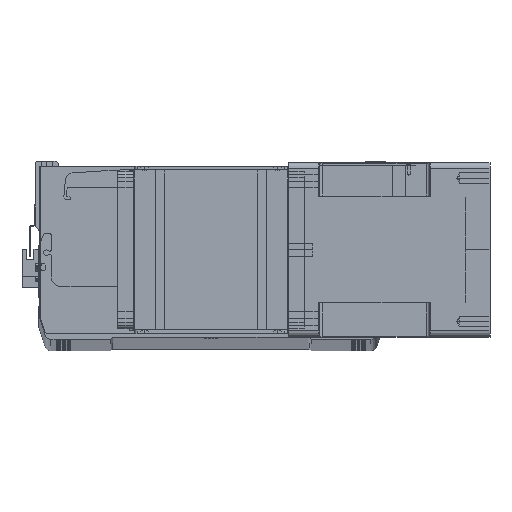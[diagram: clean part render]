
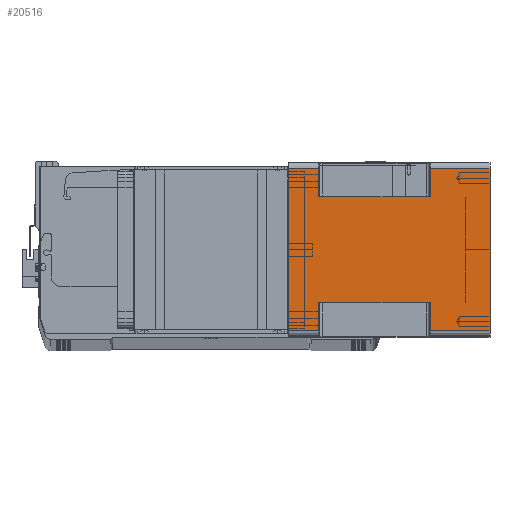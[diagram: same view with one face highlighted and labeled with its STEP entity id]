
A CAD part, top view. The second image highlights one B-rep face of the part: STEP entity #20516.
In plain terms, the highlighted planar face has unit normal (0, 0, 1) as drawn and (1, 0, 0) by its records, which use the part's own axes.
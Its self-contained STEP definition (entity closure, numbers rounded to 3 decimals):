
#662 = LINE ( 'NONE', #18295, #33392 ) ;
#807 = VERTEX_POINT ( 'NONE', #37007 ) ;
#828 = VECTOR ( 'NONE', #37213, 1000. ) ;
#923 = VECTOR ( 'NONE', #28714, 1000. ) ;
#974 = EDGE_CURVE ( 'NONE', #32377, #23443, #19074, .T. ) ;
#1045 = CARTESIAN_POINT ( 'NONE',  ( 71., 66., -115.5 ) ) ;
#1555 = ORIENTED_EDGE ( 'NONE', *, *, #15587, .F. ) ;
#1958 = EDGE_CURVE ( 'NONE', #7105, #29584, #34304, .T. ) ;
#2682 = VECTOR ( 'NONE', #31717, 1000. ) ;
#2788 = DIRECTION ( 'NONE',  ( 0., 0., 1. ) ) ;
#3122 = CARTESIAN_POINT ( 'NONE',  ( 71., -66., 0. ) ) ;
#3743 = ORIENTED_EDGE ( 'NONE', *, *, #38608, .F. ) ;
#4167 = ORIENTED_EDGE ( 'NONE', *, *, #20808, .F. ) ;
#4480 = DIRECTION ( 'NONE',  ( 1., 0., 0. ) ) ;
#4881 = CARTESIAN_POINT ( 'NONE',  ( 71., -66., -115.5 ) ) ;
#5358 = LINE ( 'NONE', #26038, #20657 ) ;
#5848 = CARTESIAN_POINT ( 'NONE',  ( 71., -66., 0. ) ) ;
#6110 = DIRECTION ( 'NONE',  ( 0., 0., 1. ) ) ;
#6191 = LINE ( 'NONE', #5848, #38870 ) ;
#6622 = CARTESIAN_POINT ( 'NONE',  ( 71., 66., -24.5 ) ) ;
#6878 = EDGE_LOOP ( 'NONE', ( #1555, #10021, #17711, #21493, #22031, #39088, #4167, #26973, #31456, #3743, #24262, #20447 ) ) ;
#7105 = VERTEX_POINT ( 'NONE', #12033 ) ;
#7199 = VECTOR ( 'NONE', #2788, 1000. ) ;
#7720 = CARTESIAN_POINT ( 'NONE',  ( 71., 66., 0. ) ) ;
#9432 = CARTESIAN_POINT ( 'NONE',  ( 71., -43., -24.5 ) ) ;
#10021 = ORIENTED_EDGE ( 'NONE', *, *, #24750, .T. ) ;
#11022 = CARTESIAN_POINT ( 'NONE',  ( 71., -66., -24.5 ) ) ;
#12033 = CARTESIAN_POINT ( 'NONE',  ( 71., -66., -164. ) ) ;
#12064 = VECTOR ( 'NONE', #34794, 1000. ) ;
#12416 = DIRECTION ( 'NONE',  ( 0., -1., 0. ) ) ;
#12924 = VERTEX_POINT ( 'NONE', #7720 ) ;
#13063 = LINE ( 'NONE', #31632, #12064 ) ;
#14229 = LINE ( 'NONE', #4881, #38070 ) ;
#15587 = EDGE_CURVE ( 'NONE', #27729, #36501, #32066, .T. ) ;
#15631 = VERTEX_POINT ( 'NONE', #28231 ) ;
#15713 = LINE ( 'NONE', #37517, #32588 ) ;
#15972 = CARTESIAN_POINT ( 'NONE',  ( 71., -43., -24.5 ) ) ;
#17046 = LINE ( 'NONE', #25581, #2682 ) ;
#17711 = ORIENTED_EDGE ( 'NONE', *, *, #1958, .F. ) ;
#18118 = CARTESIAN_POINT ( 'NONE',  ( 71., -43., -115.5 ) ) ;
#18295 = CARTESIAN_POINT ( 'NONE',  ( 71., -66., -24.5 ) ) ;
#18410 = CARTESIAN_POINT ( 'NONE',  ( 71., -43., -164. ) ) ;
#18568 = CARTESIAN_POINT ( 'NONE',  ( 71., 66., -164. ) ) ;
#19074 = LINE ( 'NONE', #18568, #7199 ) ;
#19413 = VERTEX_POINT ( 'NONE', #3122 ) ;
#20447 = ORIENTED_EDGE ( 'NONE', *, *, #28523, .T. ) ;
#20516 = ADVANCED_FACE ( 'NONE', ( #38413 ), #23547, .T. ) ;
#20657 = VECTOR ( 'NONE', #35758, 1000. ) ;
#20808 = EDGE_CURVE ( 'NONE', #15631, #807, #17046, .T. ) ;
#21493 = ORIENTED_EDGE ( 'NONE', *, *, #37551, .T. ) ;
#22031 = ORIENTED_EDGE ( 'NONE', *, *, #974, .T. ) ;
#23443 = VERTEX_POINT ( 'NONE', #1045 ) ;
#23547 = PLANE ( 'NONE',  #32980 ) ;
#24200 = LINE ( 'NONE', #15972, #923 ) ;
#24262 = ORIENTED_EDGE ( 'NONE', *, *, #37198, .F. ) ;
#24373 = DIRECTION ( 'NONE',  ( 0., 1., 0. ) ) ;
#24750 = EDGE_CURVE ( 'NONE', #27729, #29584, #14229, .T. ) ;
#24757 = CARTESIAN_POINT ( 'NONE',  ( 71., 66., -164. ) ) ;
#24871 = CARTESIAN_POINT ( 'NONE',  ( 71., -66., -164. ) ) ;
#24972 = EDGE_CURVE ( 'NONE', #23443, #807, #15713, .T. ) ;
#25581 = CARTESIAN_POINT ( 'NONE',  ( 71., 43., -164. ) ) ;
#26038 = CARTESIAN_POINT ( 'NONE',  ( 71., -66., -164. ) ) ;
#26605 = DIRECTION ( 'NONE',  ( 0., -1., 0. ) ) ;
#26973 = ORIENTED_EDGE ( 'NONE', *, *, #34453, .T. ) ;
#27729 = VERTEX_POINT ( 'NONE', #18118 ) ;
#28231 = CARTESIAN_POINT ( 'NONE',  ( 71., 43., -24.5 ) ) ;
#28523 = EDGE_CURVE ( 'NONE', #33108, #36501, #24200, .T. ) ;
#28714 = DIRECTION ( 'NONE',  ( 0., 1., 0. ) ) ;
#28977 = DIRECTION ( 'NONE',  ( 0., 0., 1. ) ) ;
#29584 = VERTEX_POINT ( 'NONE', #39624 ) ;
#29804 = DIRECTION ( 'NONE',  ( 0., 1., 0. ) ) ;
#30263 = EDGE_CURVE ( 'NONE', #33494, #12924, #13063, .T. ) ;
#30542 = VECTOR ( 'NONE', #6110, 1000. ) ;
#31456 = ORIENTED_EDGE ( 'NONE', *, *, #30263, .T. ) ;
#31632 = CARTESIAN_POINT ( 'NONE',  ( 71., 66., -164. ) ) ;
#31717 = DIRECTION ( 'NONE',  ( 0., 0., -1. ) ) ;
#32066 = LINE ( 'NONE', #18410, #30542 ) ;
#32377 = VERTEX_POINT ( 'NONE', #24757 ) ;
#32588 = VECTOR ( 'NONE', #12416, 1000. ) ;
#32980 = AXIS2_PLACEMENT_3D ( 'NONE', #39208, #4480, #29804 ) ;
#33108 = VERTEX_POINT ( 'NONE', #11022 ) ;
#33392 = VECTOR ( 'NONE', #24373, 1000. ) ;
#33494 = VERTEX_POINT ( 'NONE', #6622 ) ;
#34304 = LINE ( 'NONE', #38291, #40714 ) ;
#34453 = EDGE_CURVE ( 'NONE', #15631, #33494, #662, .T. ) ;
#34794 = DIRECTION ( 'NONE',  ( 0., 0., 1. ) ) ;
#35758 = DIRECTION ( 'NONE',  ( 0., 0., 1. ) ) ;
#36501 = VERTEX_POINT ( 'NONE', #9432 ) ;
#37007 = CARTESIAN_POINT ( 'NONE',  ( 71., 43., -115.5 ) ) ;
#37198 = EDGE_CURVE ( 'NONE', #33108, #19413, #5358, .T. ) ;
#37213 = DIRECTION ( 'NONE',  ( 0., 1., 0. ) ) ;
#37379 = DIRECTION ( 'NONE',  ( 0., 1., 0. ) ) ;
#37517 = CARTESIAN_POINT ( 'NONE',  ( 71., 43., -115.5 ) ) ;
#37551 = EDGE_CURVE ( 'NONE', #7105, #32377, #38478, .T. ) ;
#38070 = VECTOR ( 'NONE', #26605, 1000. ) ;
#38291 = CARTESIAN_POINT ( 'NONE',  ( 71., -66., -164. ) ) ;
#38413 = FACE_OUTER_BOUND ( 'NONE', #6878, .T. ) ;
#38478 = LINE ( 'NONE', #24871, #828 ) ;
#38608 = EDGE_CURVE ( 'NONE', #19413, #12924, #6191, .T. ) ;
#38870 = VECTOR ( 'NONE', #37379, 1000. ) ;
#39088 = ORIENTED_EDGE ( 'NONE', *, *, #24972, .T. ) ;
#39208 = CARTESIAN_POINT ( 'NONE',  ( 71., -66., -164. ) ) ;
#39624 = CARTESIAN_POINT ( 'NONE',  ( 71., -66., -115.5 ) ) ;
#40714 = VECTOR ( 'NONE', #28977, 1000. ) ;
